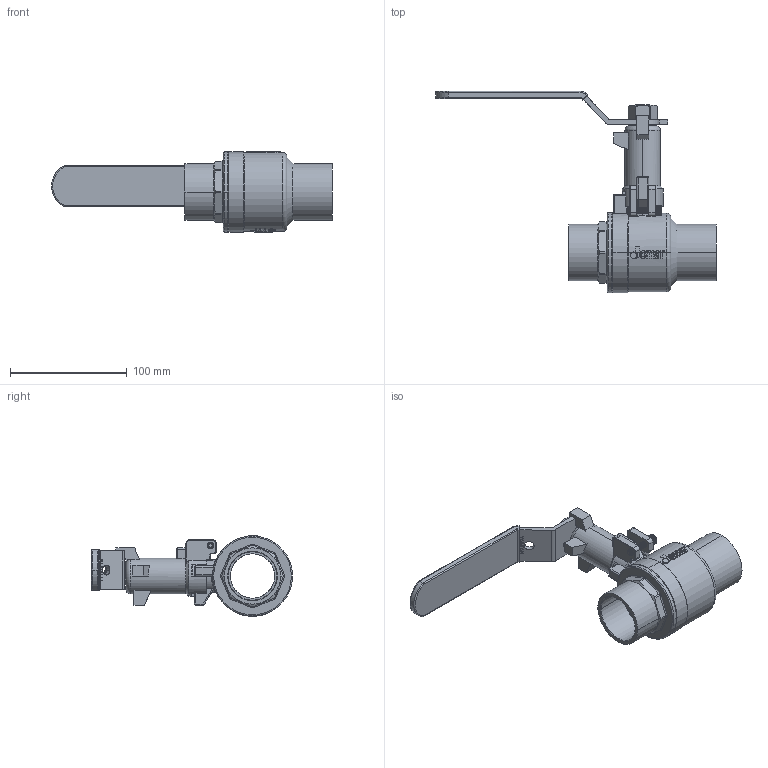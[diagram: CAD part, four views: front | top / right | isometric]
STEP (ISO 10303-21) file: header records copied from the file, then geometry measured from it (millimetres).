
FILE_DESCRIPTION (( 'STEP AP203' ), '1' );
FILE_NAME ('DN40-JOMAR增高套筒估價圖-CxC無掛鎖.STEP', '2024-04-09T08:28:18', ( '' ), ( '' ), 'SwSTEP 2.0', 'SolidWorks 2018', '' );
FILE_SCHEMA (( 'CONFIG_CONTROL_DESIGN' ));
Length unit declared in the file: millimetre
Products named in the file (17): BBL717A-1.5''JOMAR球閥-CxC帽蓋-無鉛-端面無插溝; DN50-牙套; NBL268; DN40-JOMAR增高套筒估價圖-CxC無掛鎖; EBL307; BBL717-1.5''''JOMAR球閥體-CxC-無鉛-端面無插溝; CBL238; RBL267; DN50-CBL238白色膠套-S-200CSSG; EBL208C; DN40-DN50-CBL717-無掛鎖把手組合-白色膠套 S-200CSSG; GBL218; DN50-白鐵中心栓; EBL208B; DN50-PIPE 2; TBL268A; SCREW-M5內六角-25L
Assembly tree (18 placements, depth 3):
  DN40-JOMAR增高套筒估價圖-CxC無掛鎖
    BBL717-1.5''''JOMAR球閥體-CxC-無鉛-端面無插溝
    RBL267
    EBL208C
    GBL218
    EBL208B
    TBL268A
    BBL717A-1.5''JOMAR球閥-CxC帽蓋-無鉛-端面無插溝
    NBL268
    EBL307  x2
    DN40-DN50-CBL717-無掛鎖把手組合-白色膠套 S-200CSSG
      CBL238
      DN50-CBL238白色膠套-S-200CSSG
    DN50-CBL238白色膠套-S-200CSSG
    DN50-白鐵中心栓
    DN50-PIPE 2
    SCREW-M5內六角-25L
    DN50-牙套
Bounding box: 240.55 x 172.16 x 69 mm (x, y, z)
Volume: 269010.5 mm3; surface area: 169174.1 mm2
Topology: 17 solids, 17 shells, 4285 faces, 11585 edges, 7650 vertices
Faces by surface type: plane 2228, bspline 1181, cylinder 634, cone 167, torus 61, sphere 14
Entity records: 186555 total; most frequent: CARTESIAN_POINT 119538, ORIENTED_EDGE 15528, DIRECTION 10544, EDGE_CURVE 7764, VERTEX_POINT 5115, LINE 4198, VECTOR 4198, AXIS2_PLACEMENT_3D 3173
